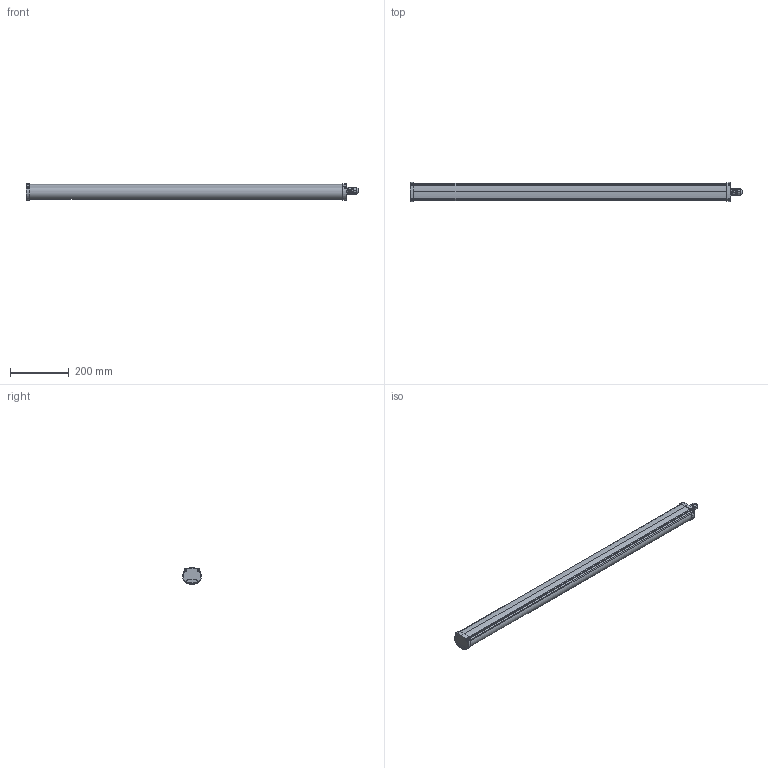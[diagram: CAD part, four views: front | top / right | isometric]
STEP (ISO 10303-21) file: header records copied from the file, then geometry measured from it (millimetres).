
FILE_DESCRIPTION(/* description */ (''),/* implementation_level */ '2;1');
FILE_NAME(/* name */ 'ZITA_SENSOR_CORRIDOR_IZTSI3.stp',/* time_stamp */ '2025-09-18T09:09:23+02:00',/* author */ ('gian.noche'),/* organization */ (''),/* preprocessor_version */ 'ST-DEVELOPER v19.2',/* originating_system */ 'Autodesk Inventor 2023',/* authorisation */ '');
FILE_SCHEMA (('AUTOMOTIVE_DESIGN { 1 0 10303 214 3 1 1 }'));
Length unit declared in the file: millimetre
Products named in the file (1): IDP_108_ZITA_SENSOR_1125_Semplifica_1
Bounding box: 1129.79 x 65.19 x 55.46 mm (x, y, z)
Volume: 2803708.6 mm3; surface area: 239328.6 mm2
Topology: 1 solids, 1 shells, 219 faces, 678 edges, 472 vertices
Faces by surface type: cylinder 98, plane 81, cone 31, torus 6, bspline 3
Full cylindrical faces by diameter (mm): 18.815 x1, 23 x1, 23.45 x1
Entity records: 8282 total; most frequent: CARTESIAN_POINT 2261, ORIENTED_EDGE 1356, DIRECTION 1231, EDGE_CURVE 678, AXIS2_PLACEMENT_3D 475, VERTEX_POINT 472, LINE 281, VECTOR 281
